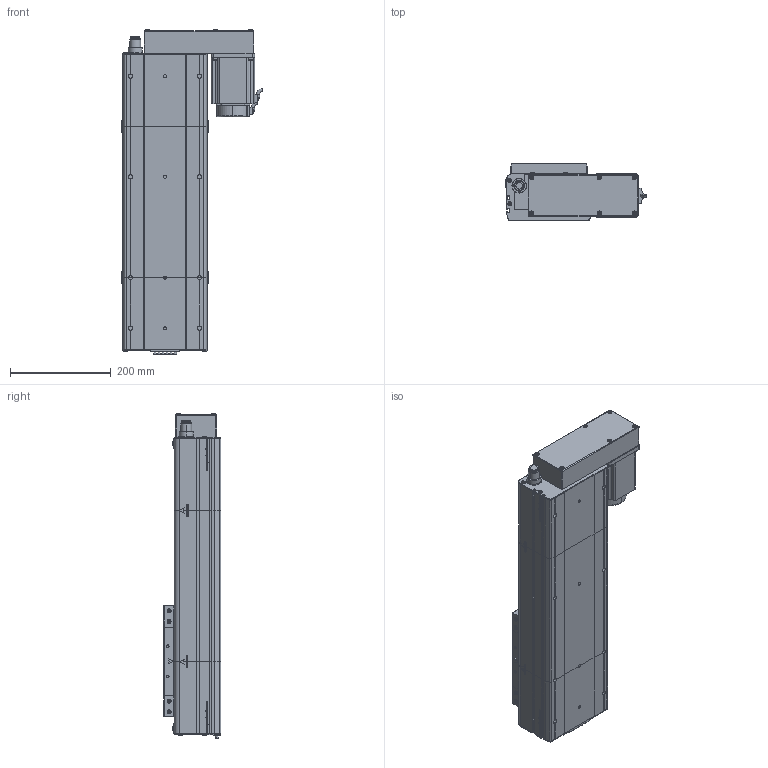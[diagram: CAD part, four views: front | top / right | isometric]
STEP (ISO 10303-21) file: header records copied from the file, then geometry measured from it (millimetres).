
FILE_DESCRIPTION (( 'STEP AP214' ), '1' );
FILE_NAME ('D17 CSH BL S300.STEP', '2010-06-29T13:50:47', ( 'Christophe Gaillard' ), ( 'SGA' ), 'SwSTEP 2.0', 'SolidWorks 2010', '' );
FILE_SCHEMA (( 'AUTOMOTIVE_DESIGN' ));
Length unit declared in the file: millimetre
Products named in the file (29): Tail D17+100_Default; Corp Tail D17+100_Default; vis M5 L15_Default; chariot D17_Default; plaque de serrage D17_Default; support chariot D17_Default; Chariot D17_Default; glissiere_Default; Plaque de bout D17_Default; couvercle D17_Default; Support Moteur BL_Default; D17 CSH BL S300; plaque de serrage D17 head BL_Default; vis M5 L47_Default; couvercle D17 head BL_Default; Head D17 BL_Default; Plaque de bout D17 head BL_Default; Corp Head  D17 BL_Default; codeur 90BLDC100-640; corps 90BLDC100A-640; Moteur motionking 90BLDC100A-640; Conecteur_Default; Conecteur2_Default; Corp L300_Default; ecrou_Default; avant 90BLDC100A-640; Corp D17 S300_Default; couvercle D17-300_Default; vis M5 L60_Default
Assembly tree (52 placements, depth 4):
  D17 CSH BL S300
    Chariot D17_Default
      vis M5 L15_Default  x8
      support chariot D17_Default
      chariot D17_Default
      glissiere_Default
    Head D17 BL_Default
      ecrou_Default  x4
      vis M5 L60_Default  x4
      vis M5 L15_Default  x4
      couvercle D17 head BL_Default
      vis M5 L47_Default  x2
      Support Moteur BL_Default
      plaque de serrage D17 head BL_Default
      Moteur motionking 90BLDC100A-640
        Conecteur_Default
        Conecteur2_Default
        codeur 90BLDC100-640
        avant 90BLDC100A-640
        corps 90BLDC100A-640
      Corp Head  D17 BL_Default
      Plaque de bout D17 head BL_Default
    Corp D17 S300_Default
      Corp L300_Default
      couvercle D17-300_Default
    Tail D17+100_Default
      plaque de serrage D17_Default
      Corp Tail D17+100_Default
      vis M5 L15_Default  x6
      couvercle D17_Default
      Plaque de bout D17_Default
Bounding box: 279.16 x 114 x 644.2 mm (x, y, z)
Volume: 5540230.4 mm3; surface area: 1023665.2 mm2
Topology: 89 solids, 89 shells, 3147 faces, 7918 edges, 5162 vertices
Faces by surface type: plane 1866, bspline 758, cylinder 404, torus 67, cone 48, sphere 4
Entity records: 147886 total; most frequent: CARTESIAN_POINT 80865, ORIENTED_EDGE 13376, DIRECTION 9632, EDGE_CURVE 6688, LINE 4542, VECTOR 4542, VERTEX_POINT 4430, EDGE_LOOP 2842
